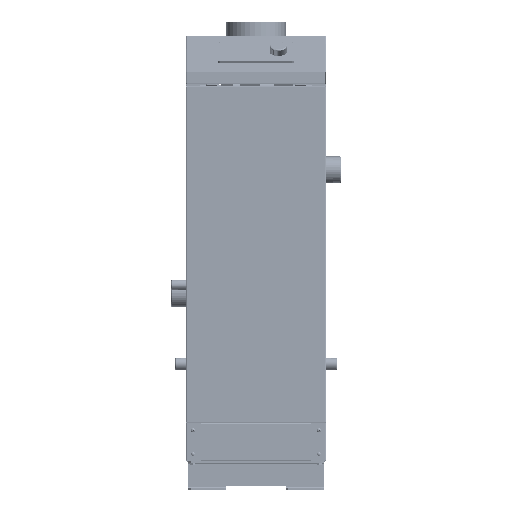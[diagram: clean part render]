
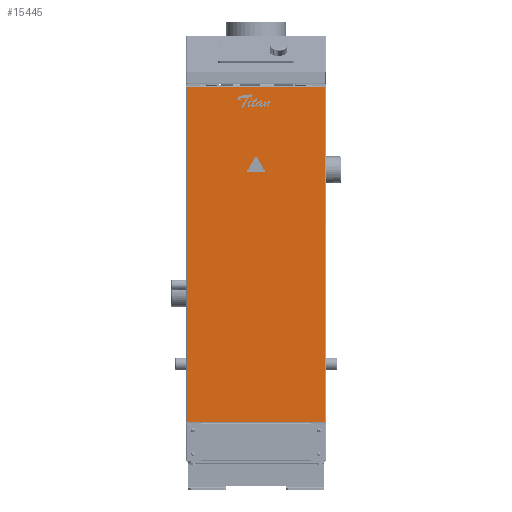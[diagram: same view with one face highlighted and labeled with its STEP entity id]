
A CAD part, top view. The second image highlights one B-rep face of the part: STEP entity #15445.
In plain terms, the highlighted planar face has unit normal (0, 0, 1) as drawn and (0, 1, 0) by its records, which use the part's own axes.
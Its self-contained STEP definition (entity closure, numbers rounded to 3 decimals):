
#15445=ADVANCED_FACE('',(#43322),#43324,.T.);
#43322=FACE_BOUND('',#43323,.T.);
#43323=EDGE_LOOP('',(#74129,#74130,#74131,#74132));
#43324=PLANE('',#43325);
#43325=AXIS2_PLACEMENT_3D('',#43326,#43327,#43328);
#43326=CARTESIAN_POINT('',(-0.,1.,0.));
#43327=DIRECTION('',(0.,1.,0.));
#43328=DIRECTION('',(-1.,0.,0.));
#74129=ORIENTED_EDGE('',*,*,#91550,.T.);
#74130=ORIENTED_EDGE('',*,*,#91571,.T.);
#74131=ORIENTED_EDGE('',*,*,#91574,.T.);
#74132=ORIENTED_EDGE('',*,*,#91580,.T.);
#91550=EDGE_CURVE('',#105628,#105597,#105638,.T.);
#91571=EDGE_CURVE('',#105597,#105594,#105668,.T.);
#91574=EDGE_CURVE('',#105594,#105620,#105672,.T.);
#91580=EDGE_CURVE('',#105620,#105628,#105680,.T.);
#105594=VERTEX_POINT('',#157217);
#105597=VERTEX_POINT('',#157245);
#105620=VERTEX_POINT('',#157342);
#105628=VERTEX_POINT('',#157381);
#105638=LINE('',#157447,#157448);
#105668=LINE('',#157521,#157522);
#105672=LINE('',#157531,#157532);
#105680=LINE('',#157551,#157552);
#157217=CARTESIAN_POINT('',(-145.5,1.,353.5));
#157245=CARTESIAN_POINT('',(-145.5,1.,-353.5));
#157342=CARTESIAN_POINT('',(145.5,1.,353.5));
#157381=CARTESIAN_POINT('',(145.5,1.,-353.5));
#157447=CARTESIAN_POINT('',(145.5,1.,-353.5));
#157448=VECTOR('',#157449,1.);
#157449=DIRECTION('',(-1.,0.,0.));
#157521=CARTESIAN_POINT('',(-145.5,1.,-353.5));
#157522=VECTOR('',#157523,1.);
#157523=DIRECTION('',(0.,0.,1.));
#157531=CARTESIAN_POINT('',(-145.5,1.,353.5));
#157532=VECTOR('',#157533,1.);
#157533=DIRECTION('',(1.,0.,0.));
#157551=CARTESIAN_POINT('',(145.5,1.,353.5));
#157552=VECTOR('',#157553,1.);
#157553=DIRECTION('',(0.,0.,-1.));
